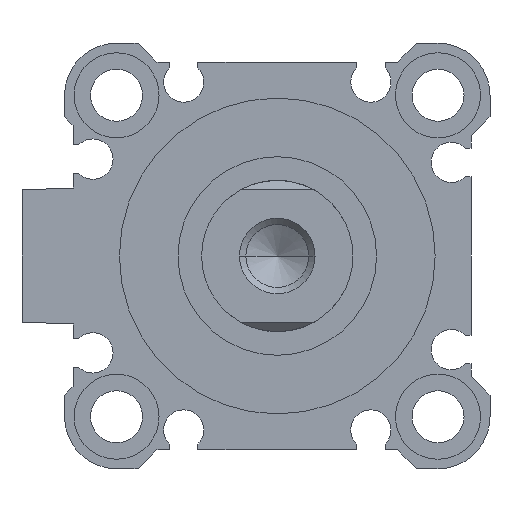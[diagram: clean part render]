
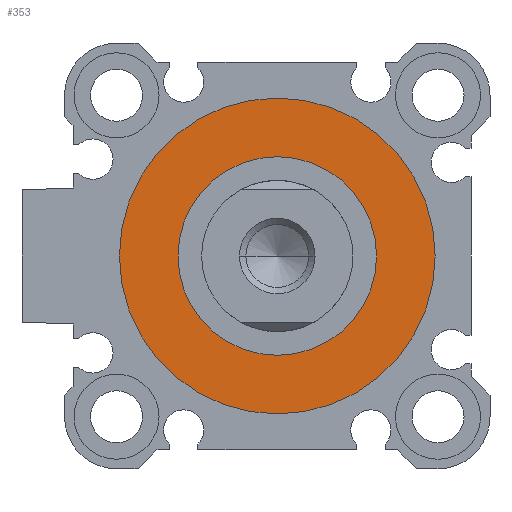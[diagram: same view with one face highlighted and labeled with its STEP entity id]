
A CAD part, left-side view. The second image highlights one B-rep face of the part: STEP entity #353.
In plain terms, the highlighted planar face has unit normal (-1, 0, 0).
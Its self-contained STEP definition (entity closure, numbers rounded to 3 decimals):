
#84 = DIRECTION ( 'NONE',  ( 0., 0., -1. ) ) ;
#113 = CIRCLE ( 'NONE', #762, 16.7 ) ;
#236 = CARTESIAN_POINT ( 'NONE',  ( 2.1, 0., 0. ) ) ;
#256 = CARTESIAN_POINT ( 'NONE',  ( 2.1, 0., -16.7 ) ) ;
#353 = ADVANCED_FACE ( 'NONE', ( #2242, #4480 ), #1809, .F. ) ;
#444 = DIRECTION ( 'NONE',  ( 1., 0., 0. ) ) ;
#445 = VERTEX_POINT ( 'NONE', #3910 ) ;
#684 = EDGE_CURVE ( 'NONE', #866, #445, #4736, .T. ) ;
#762 = AXIS2_PLACEMENT_3D ( 'NONE', #2474, #1949, #2857 ) ;
#842 = EDGE_LOOP ( 'NONE', ( #3096, #4732 ) ) ;
#866 = VERTEX_POINT ( 'NONE', #2298 ) ;
#1182 = CIRCLE ( 'NONE', #4425, 16.7 ) ;
#1283 = DIRECTION ( 'NONE',  ( 0., 0., -1. ) ) ;
#1484 = DIRECTION ( 'NONE',  ( 1., 0., 0. ) ) ;
#1717 = DIRECTION ( 'NONE',  ( 0., 0., -1. ) ) ;
#1799 = ORIENTED_EDGE ( 'NONE', *, *, #684, .T. ) ;
#1809 = PLANE ( 'NONE',  #2214 ) ;
#1949 = DIRECTION ( 'NONE',  ( 1., 0., 0. ) ) ;
#2087 = CIRCLE ( 'NONE', #4922, 10.5 ) ;
#2130 = EDGE_LOOP ( 'NONE', ( #1799, #3924 ) ) ;
#2214 = AXIS2_PLACEMENT_3D ( 'NONE', #236, #1484, #3009 ) ;
#2242 = FACE_OUTER_BOUND ( 'NONE', #842, .T. ) ;
#2298 = CARTESIAN_POINT ( 'NONE',  ( 2.1, 0., 10.5 ) ) ;
#2325 = CARTESIAN_POINT ( 'NONE',  ( 2.1, 0., 0. ) ) ;
#2474 = CARTESIAN_POINT ( 'NONE',  ( 2.1, 0., 0. ) ) ;
#2561 = DIRECTION ( 'NONE',  ( 1., 0., 0. ) ) ;
#2707 = VERTEX_POINT ( 'NONE', #2947 ) ;
#2857 = DIRECTION ( 'NONE',  ( 0., 0., -1. ) ) ;
#2947 = CARTESIAN_POINT ( 'NONE',  ( 2.1, 0., 16.7 ) ) ;
#3009 = DIRECTION ( 'NONE',  ( 0., 1., 0. ) ) ;
#3014 = EDGE_CURVE ( 'NONE', #445, #866, #2087, .T. ) ;
#3096 = ORIENTED_EDGE ( 'NONE', *, *, #4046, .F. ) ;
#3183 = EDGE_CURVE ( 'NONE', #5015, #2707, #1182, .T. ) ;
#3910 = CARTESIAN_POINT ( 'NONE',  ( 2.1, 0., -10.5 ) ) ;
#3924 = ORIENTED_EDGE ( 'NONE', *, *, #3014, .T. ) ;
#4046 = EDGE_CURVE ( 'NONE', #2707, #5015, #113, .T. ) ;
#4425 = AXIS2_PLACEMENT_3D ( 'NONE', #4862, #4457, #1283 ) ;
#4457 = DIRECTION ( 'NONE',  ( 1., 0., 0. ) ) ;
#4480 = FACE_BOUND ( 'NONE', #2130, .T. ) ;
#4486 = CARTESIAN_POINT ( 'NONE',  ( 2.1, 0., 0. ) ) ;
#4732 = ORIENTED_EDGE ( 'NONE', *, *, #3183, .F. ) ;
#4736 = CIRCLE ( 'NONE', #4982, 10.5 ) ;
#4862 = CARTESIAN_POINT ( 'NONE',  ( 2.1, 0., 0. ) ) ;
#4922 = AXIS2_PLACEMENT_3D ( 'NONE', #2325, #444, #84 ) ;
#4982 = AXIS2_PLACEMENT_3D ( 'NONE', #4486, #2561, #1717 ) ;
#5015 = VERTEX_POINT ( 'NONE', #256 ) ;
